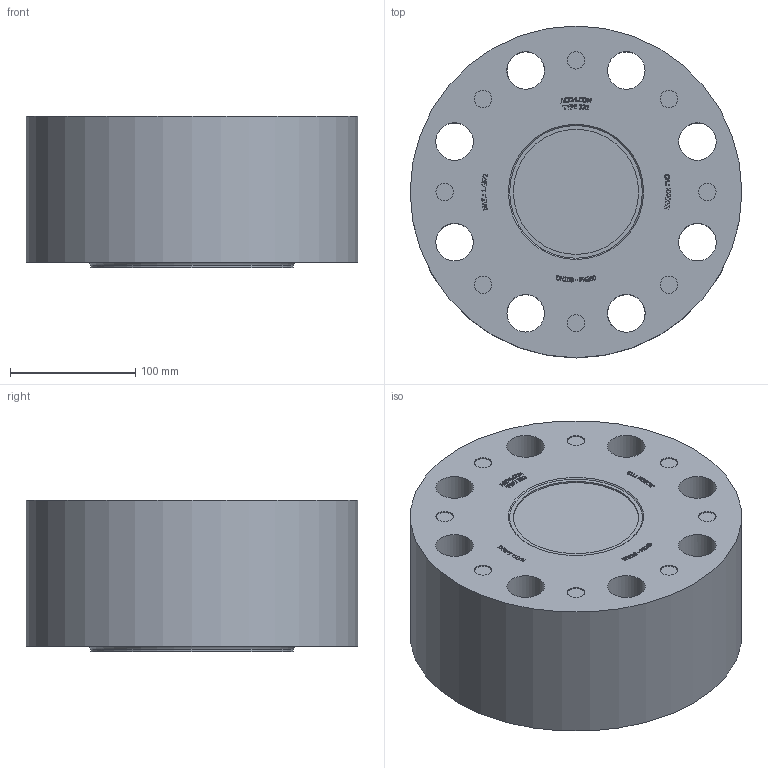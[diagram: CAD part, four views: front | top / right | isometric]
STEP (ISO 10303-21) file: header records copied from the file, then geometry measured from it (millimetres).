
FILE_DESCRIPTION(/* description */ ('ACI TYPE 322 DN 100 PN160'),/* implementation_level */ '2;1');
FILE_NAME(/* name */ 'W:\Konstruktion_ACI\322\ACI-322-100-160.stp',/* time_stamp */ '2020-04-21T11:09:56+02:00',/* author */ ('Götz'),/* organization */ ('ACI Industriearmaturen GmbH info@aci24.com www.aci24.com'),/* preprocessor_version */ 'ST-DEVELOPER v16.1',/* originating_system */ 'Autodesk Inventor 2016',/* authorisation */ 'ACI Industriearmaturen GmbH info@aci24.com www.aci24.com');
FILE_SCHEMA (('CONFIG_CONTROL_DESIGN'));
Length unit declared in the file: centimetre
Products named in the file (1): ACI-322-100-160
Bounding box: 265 x 265 x 121 mm (x, y, z)
Volume: 5806376.3 mm3; surface area: 288154.2 mm2
Topology: 1 solids, 1 shells, 761 faces, 2029 edges, 1360 vertices
Faces by surface type: plane 521, bspline 210, cylinder 20, torus 9, cone 1
Full cylindrical faces by diameter (mm): 13.835 x8, 30 x8, 100 x2, 162 x1, 265 x1
Entity records: 24986 total; most frequent: CARTESIAN_POINT 6805, ORIENTED_EDGE 3952, DIRECTION 2719, EDGE_CURVE 1976, LINE 1497, VECTOR 1497, VERTEX_POINT 1337, EDGE_LOOP 897
